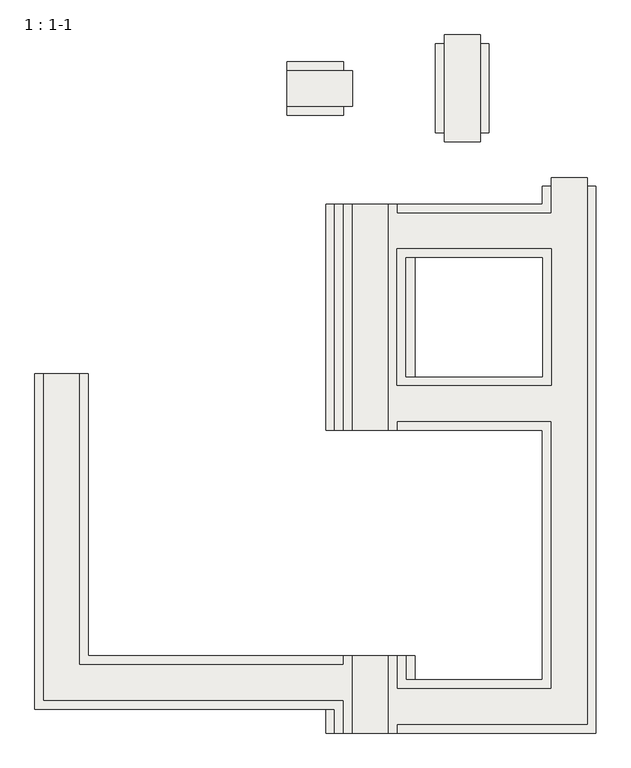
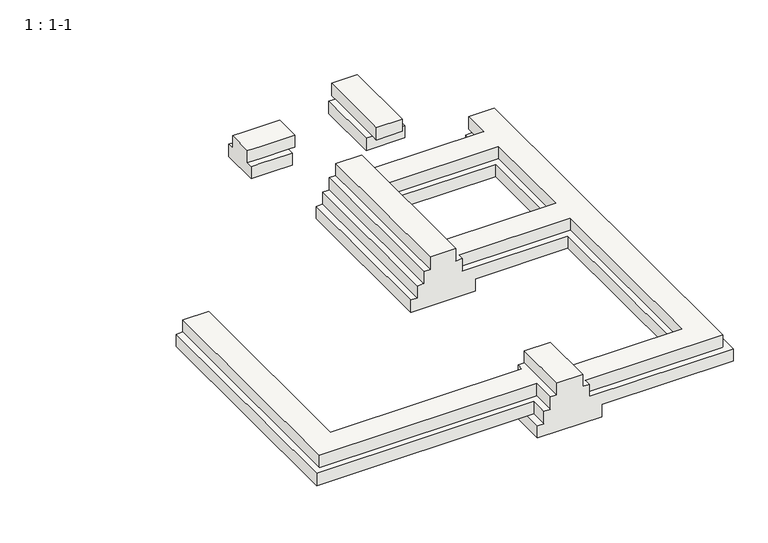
"""IFC4 building model written with IfcOpenShell, lengths in millimetres: slab geometry, 1 : 1-1."""

from ifc_helpers import new_model, si_unit, origin, place, context, project, spatial, faceted_brep, source, transform, mapped, element, save


def slab_1_1_1_ae598076(model_context):
    return source(origin(), model_context, "Body", "Brep", [
        faceted_brep([(-9078.0662967, -2504.3219782, -900.0), (-9078.0662967, -2504.3219782, -1200.0), (-9078.0662967, -4504.3219782, -1200.0), (-9078.0662967, -4504.3219782, -900.0), (-8928.0662967, -2354.3219782, -600.0), (-8928.0662967, -2354.3219782, -900.0), (-8928.0662967, -4654.3219782, -900.0), (-8928.0662967, -4654.3219782, -600.0), (-8328.0662967, -10354.3219782, -600.0), (-8328.0662967, -10354.3219782, -900.0), (-8328.0662967, -1304.3219782, -900.0), (-8328.0662967, -1154.3219782, -900.0), (-8328.0662967, -1154.3219782, -600.0), (-8178.0662967, -10504.3219782, -900.0), (-8178.0662967, -10504.3219782, -1200.0), (-8178.0662967, -1304.3219782, -1200.0), (-8178.0662967, -1304.3219782, -900.0), (-11228.0662967, -4504.3219782, -1200.0), (-11378.0662967, -4504.3219782, -1200.0), (-11378.0662967, -4504.3219782, -900.0), (-11528.0662967, -4654.3219782, -900.0), (-11528.0662967, -4654.3219782, -600.0), (-11378.0662967, -5254.3219782, -900.0), (-8928.0662967, -5254.3219782, -900.0), (-8928.0662967, -5254.3219782, -600.0), (-11528.0662967, -5254.3219782, -600.0), (-11528.0662967, -5254.3219782, -900.0), (-11528.0662967, -5404.3219782, -600.0), (-11678.0662967, -5404.3219782, -600.0), (-11678.0662967, -5404.3219782, -300.0), (-12278.0662967, -5404.3219782, -300.0), (-12278.0662967, -5404.3219782, -600.0), (-12428.0662967, -5404.3219782, -600.0), (-12428.0662967, -5404.3219782, -900.0), (-12578.0662967, -5404.3219782, -900.0), (-12578.0662967, -5404.3219782, -1200.0), (-12728.0662967, -5404.3219782, -1200.0), (-12728.0662967, -5404.3219782, -1500.0), (-11228.0662967, -5404.3219782, -1500.0), (-11228.0662967, -5404.3219782, -1200.0), (-9078.0662967, -5404.3219782, -1200.0), (-9078.0662967, -5404.3219782, -900.0), (-11528.0662967, -5404.3219782, -900.0), (-11228.0662967, -2504.3219782, -1200.0), (-11228.0662967, -1604.3219782, -1200.0), (-9078.0662967, -1604.3219782, -1200.0), (-9078.0662967, -1304.3219782, -1200.0), (-11228.0662967, -10504.3219782, -1200.0), (-11228.0662967, -9604.3219782, -1200.0), (-9078.0662967, -9604.3219782, -1200.0), (-11378.0662967, -2504.3219782, -900.0), (-11378.0662967, -2504.3219782, -1200.0), (-11528.0662967, -2354.3219782, -900.0), (-11528.0662967, -2354.3219782, -600.0), (-11378.0662967, -1754.3219782, -900.0), (-11528.0662967, -1754.3219782, -900.0), (-11528.0662967, -1754.3219782, -600.0), (-8928.0662967, -1754.3219782, -600.0), (-8928.0662967, -1754.3219782, -900.0), (-11678.0662967, -1604.3219782, -600.0), (-11528.0662967, -1604.3219782, -600.0), (-11528.0662967, -1604.3219782, -900.0), (-9078.0662967, -1604.3219782, -900.0), (-11228.0662967, -1604.3219782, -1500.0), (-12728.0662967, -1604.3219782, -1500.0), (-12728.0662967, -1604.3219782, -1200.0), (-12578.0662967, -1604.3219782, -1200.0), (-12578.0662967, -1604.3219782, -900.0), (-12428.0662967, -1604.3219782, -900.0), (-12428.0662967, -1604.3219782, -600.0), (-12278.0662967, -1604.3219782, -600.0), (-12278.0662967, -1604.3219782, -300.0), (-11678.0662967, -1604.3219782, -300.0), (-16728.0662967, -4454.3219782, -1200.0), (-17628.0662967, -4454.3219782, -1200.0), (-17628.0662967, -4454.3219782, -900.0), (-17478.0662967, -4454.3219782, -900.0), (-17478.0662967, -4454.3219782, -600.0), (-16878.0662967, -4454.3219782, -600.0), (-16878.0662967, -4454.3219782, -900.0), (-16728.0662967, -4454.3219782, -900.0), (-17628.0662967, -10104.3219782, -1200.0), (-17628.0662967, -10104.3219782, -900.0), (-17478.0662967, -9954.3219782, -900.0), (-17478.0662967, -9954.3219782, -600.0), (-16878.0662967, -4754.3219782, -600.0), (-16878.0662967, -9354.3219782, -600.0), (-16878.0662967, -9354.3219782, -900.0), (-16878.0662967, -4754.3219782, -900.0), (-16728.0662967, -4754.3219782, -900.0), (-16728.0662967, -4904.3219782, -900.0), (-16728.0662967, -9204.3219782, -900.0), (-16728.0662967, -9204.3219782, -1200.0), (-16728.0662967, -4904.3219782, -1200.0), (-12728.0662967, -9204.3219782, -1200.0), (-12728.0662967, -10104.3219782, -1200.0), (-9078.0662967, -1304.3219782, -900.0), (-8928.0662967, -1154.3219782, -600.0), (-8928.0662967, -1154.3219782, -900.0), (-8928.0662967, -1304.3219782, -900.0), (-12578.0662967, -10104.3219782, -1200.0), (-12578.0662967, -10104.3219782, -900.0), (-12428.0662967, -9954.3219782, -900.0), (-12428.0662967, -9954.3219782, -600.0), (-12428.0662967, -9354.3219782, -600.0), (-12428.0662967, -9354.3219782, -900.0), (-9078.0662967, -9604.3219782, -900.0), (-8928.0662967, -9754.3219782, -900.0), (-8928.0662967, -9754.3219782, -600.0), (-11378.0662967, -9604.3219782, -1200.0), (-11378.0662967, -9604.3219782, -900.0), (-11528.0662967, -9754.3219782, -900.0), (-11528.0662967, -9754.3219782, -600.0), (-11528.0662967, -10354.3219782, -600.0), (-11528.0662967, -10354.3219782, -900.0), (-12428.0662967, -9204.3219782, -900.0), (-12428.0662967, -9204.3219782, -600.0), (-12278.0662967, -9204.3219782, -600.0), (-12278.0662967, -9204.3219782, -300.0), (-11678.0662967, -9204.3219782, -300.0), (-11678.0662967, -9204.3219782, -600.0), (-11528.0662967, -9204.3219782, -600.0), (-11528.0662967, -9204.3219782, -900.0), (-11378.0662967, -9204.3219782, -900.0), (-11378.0662967, -9204.3219782, -1200.0), (-11228.0662967, -9204.3219782, -1200.0), (-11228.0662967, -9204.3219782, -1500.0), (-12728.0662967, -9204.3219782, -1500.0), (-11528.0662967, -10504.3219782, -900.0), (-11528.0662967, -10504.3219782, -600.0), (-11678.0662967, -10504.3219782, -600.0), (-11678.0662967, -10504.3219782, -300.0), (-12278.0662967, -10504.3219782, -300.0), (-12278.0662967, -10504.3219782, -600.0), (-12428.0662967, -10504.3219782, -600.0), (-12428.0662967, -10504.3219782, -900.0), (-12578.0662967, -10504.3219782, -900.0), (-12578.0662967, -10504.3219782, -1200.0), (-12728.0662967, -10504.3219782, -1200.0), (-12728.0662967, -10504.3219782, -1500.0), (-11228.0662967, -10504.3219782, -1500.0)], [[[0, 1, 2, 3]], [[4, 5, 6, 7]], [[8, 9, 10, 11, 12]], [[13, 14, 15, 16]], [[3, 2, 17, 18, 19]], [[7, 6, 20, 21]], [[22, 23, 24, 25, 26]], [[27, 28, 29, 30, 31, 32, 33, 34, 35, 36, 37, 38, 39, 40, 41, 42]], [[2, 1, 43, 44, 45, 46, 15, 14, 47, 48, 49, 40, 39, 17]], [[1, 0, 50, 51, 43]], [[6, 5, 52, 20], [0, 3, 19, 50]], [[5, 4, 53, 52]], [[54, 55, 56, 57, 58]], [[59, 60, 61, 62, 45, 44, 63, 64, 65, 66, 67, 68, 69, 70, 71, 72]], [[33, 32, 69, 68]], [[73, 74, 75, 76, 77, 78, 79, 80]], [[75, 74, 81, 82]], [[77, 76, 83, 84]], [[79, 78, 85, 86, 87, 88]], [[73, 80, 89, 90, 91, 92, 93]], [[74, 73, 93, 92, 94, 95, 81]], [[45, 62, 96, 46]], [[58, 57, 97, 98, 99]], [[82, 81, 95, 100, 101]], [[84, 83, 102, 103]], [[87, 86, 104, 105]], [[49, 106, 41, 40]], [[107, 108, 24, 23]], [[106, 49, 48, 109, 110]], [[108, 107, 111, 112]], [[9, 8, 113, 114]], [[37, 36, 65, 64]], [[36, 35, 66, 65]], [[35, 34, 67, 66]], [[34, 33, 68, 67]], [[31, 30, 71, 70]], [[30, 29, 72, 71]], [[29, 28, 59, 72]], [[61, 60, 56, 55]], [[19, 18, 51, 50]], [[18, 17, 43, 51]], [[39, 38, 63, 44, 43, 17]], [[38, 37, 64, 63]], [[92, 91, 115, 116, 117, 118, 119, 120, 121, 122, 123, 124, 125, 126, 127, 94]], [[14, 13, 128, 129, 130, 131, 132, 133, 134, 135, 136, 137, 138, 139, 140, 47]], [[94, 127, 139, 138, 95]], [[138, 137, 100, 95]], [[137, 136, 101, 100]], [[80, 79, 88, 87, 105, 115, 91, 90, 89]], [[116, 115, 105, 104]], [[78, 77, 84, 103, 134, 133, 117, 116, 104, 86, 85]], [[118, 117, 133, 132]], [[119, 118, 132, 131]], [[120, 119, 131, 130]], [[32, 31, 70, 69]], [[122, 121, 112, 111]], [[62, 61, 55, 54, 58, 99, 96]], [[124, 123, 110, 109]], [[125, 124, 109, 48]], [[126, 125, 48, 47, 140]], [[127, 126, 140, 139]], [[53, 21, 20, 52]], [[27, 42, 26, 25]], [[76, 75, 82, 101, 136, 135, 102, 83]], [[135, 134, 103, 102]], [[60, 59, 28, 27, 25, 24, 108, 112, 121, 120, 130, 129, 113, 8, 12, 97, 57, 56], [4, 7, 21, 53]], [[129, 128, 114, 113]], [[128, 13, 16, 10, 9, 114]], [[123, 122, 111, 107, 23, 22, 26, 42, 41, 106, 110]], [[11, 98, 97, 12]], [[99, 10, 16, 15, 46, 96]], [[98, 11, 10, 99]]]),
        faceted_brep([(-13378.0662967, 795.6780218, -1200.0), (-13378.0662967, -104.3219782, -1200.0), (-13378.0662967, -104.3219782, -900.0), (-13378.0662967, 45.6780218, -900.0), (-13378.0662967, 45.6780218, -600.0), (-13378.0662967, 645.6780218, -600.0), (-13378.0662967, 645.6780218, -900.0), (-13378.0662967, 795.6780218, -900.0), (-13078.0662967, 795.6780218, -900.0), (-12928.0662967, 795.6780218, -900.0), (-12428.0662967, 795.6780218, -900.0), (-12428.0662967, 795.6780218, -1200.0), (-12928.0662967, 795.6780218, -1200.0), (-13078.0662967, 645.6780218, -900.0), (-12428.0662967, 645.6780218, -900.0), (-13078.0662967, 645.6780218, -600.0), (-12278.0662967, 645.6780218, -600.0), (-12278.0662967, 645.6780218, -900.0), (-13078.0662967, 45.6780218, -600.0), (-12278.0662967, 45.6780218, -600.0), (-13078.0662967, 45.6780218, -900.0), (-12428.0662967, 45.6780218, -900.0), (-12278.0662967, 45.6780218, -900.0), (-13078.0662967, -104.3219782, -900.0), (-12928.0662967, -104.3219782, -900.0), (-12428.0662967, -104.3219782, -900.0), (-12928.0662967, -104.3219782, -1200.0), (-12428.0662967, -104.3219782, -1200.0)], [[[0, 1, 2, 3, 4, 5, 6, 7]], [[0, 7, 8, 9, 10, 11, 12]], [[7, 6, 13, 14, 10, 9, 8]], [[6, 5, 15, 16, 17, 14, 13]], [[5, 4, 18, 19, 16, 15]], [[4, 3, 20, 21, 22, 19, 18]], [[3, 2, 23, 24, 25, 21, 20]], [[2, 1, 26, 27, 25, 24, 23]], [[1, 0, 12, 11, 27, 26]], [[22, 17, 16, 19]], [[14, 21, 25, 27, 11, 10]], [[17, 22, 21, 14]]]),
        faceted_brep([(-10878.0662967, 1095.6780218, -1200.0), (-10878.0662967, -404.3219782, -1200.0), (-10878.0662967, -404.3219782, -900.0), (-10878.0662967, 1095.6780218, -900.0), (-10728.0662967, -404.3219782, -900.0), (-10728.0662967, 1095.6780218, -900.0), (-10728.0662967, -554.3219782, -900.0), (-10728.0662967, -554.3219782, -600.0), (-10728.0662967, 1245.6780218, -600.0), (-10728.0662967, 1245.6780218, -900.0), (-10128.0662967, -554.3219782, -600.0), (-10128.0662967, 1245.6780218, -600.0), (-10128.0662967, -554.3219782, -900.0), (-10128.0662967, -404.3219782, -900.0), (-10128.0662967, 1095.6780218, -900.0), (-10128.0662967, 1245.6780218, -900.0), (-9978.0662967, -404.3219782, -900.0), (-9978.0662967, 1095.6780218, -900.0), (-9978.0662967, -404.3219782, -1200.0), (-9978.0662967, 1095.6780218, -1200.0)], [[[0, 1, 2, 3]], [[3, 2, 4, 5]], [[5, 4, 6, 7, 8, 9]], [[8, 7, 10, 11]], [[11, 10, 12, 13, 14, 15]], [[14, 13, 16, 17]], [[17, 16, 18, 19]], [[1, 0, 19, 18]], [[13, 4, 2, 1, 18, 16]], [[6, 12, 10, 7]], [[5, 14, 17, 19, 0, 3]], [[4, 13, 12, 6]], [[15, 9, 8, 11]], [[14, 5, 9, 15]]]),
    ])


if __name__ == "__main__":
    model = new_model("IFC4")
    model_context = context("Model", 3, world=origin())
    ifc_project = project(units=[si_unit("LENGTHUNIT", "METRE", prefix="MILLI")], contexts=[model_context])
    site = spatial("IfcSite", under=ifc_project)
    building = spatial("IfcBuilding", under=site)
    placement = place(None, origin())
    slab_1_1_1_shape = slab_1_1_1_ae598076(model_context)
    element("IfcSlab", 1, ObjectType="1 : 1-1", at=placement, inside=building, context=model_context, shape_type="MappedRepresentation", body=[
        mapped(slab_1_1_1_shape, transform((0.0, 0.0, 0.0), x_axis=(1.0, 0.0, 0.0), y_axis=(0.0, 1.0, 0.0), z_axis=(0.0, 0.0, 1.0))),
    ])
    save(model, "model.ifc")
